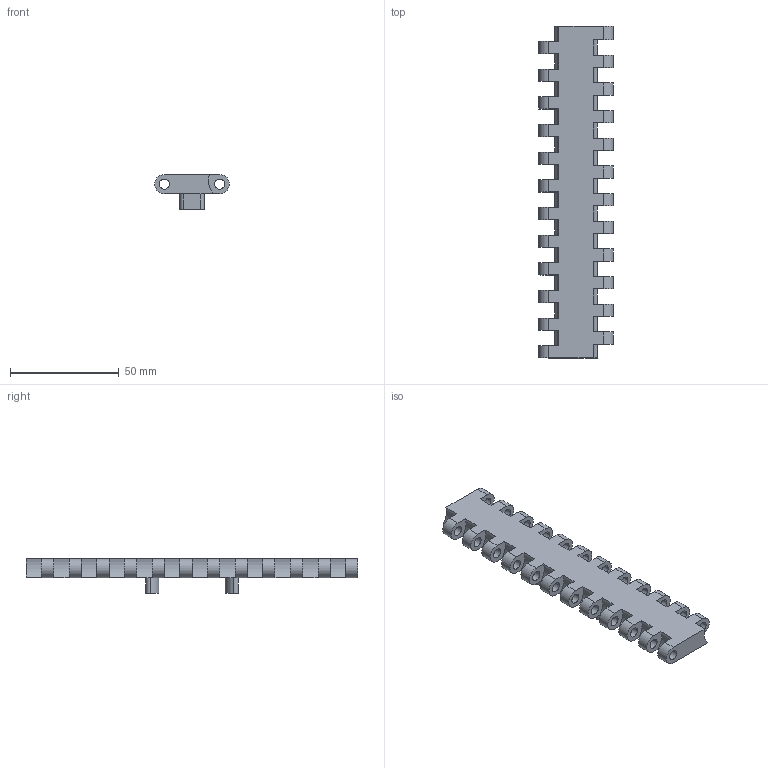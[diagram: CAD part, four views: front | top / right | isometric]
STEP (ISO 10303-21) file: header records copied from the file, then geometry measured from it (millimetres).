
FILE_DESCRIPTION(('CATIA V5 STEP Exchange'),'2;1');
FILE_NAME('C:\Users\ALI OZGUN\Desktop\alhan\TESLIMEDILEN3\822B01P01.stp','2017-09-21T11:51:39+00:00',('none'),('none'),'CATIA Version 5 Release 21 GA (IN-10)','CATIA V5 STEP AP203','none');
FILE_SCHEMA(('CONFIG_CONTROL_DESIGN'));
Length unit declared in the file: millimetre
Products named in the file (1): 822B01P01
Bounding box: 34.2 x 152.4 x 16 mm (x, y, z)
Volume: 19365.1 mm3; surface area: 18245.4 mm2
Topology: 1 solids, 1 shells, 225 faces, 668 edges, 452 vertices
Faces by surface type: plane 113, cylinder 111, extrusion 1
Entity records: 6889 total; most frequent: ORIENTED_EDGE 1336, CARTESIAN_POINT 1233, DIRECTION 848, EDGE_CURVE 668, VERTEX_POINT 452, VECTOR 432, LINE 431, AXIS2_PLACEMENT_3D 326
